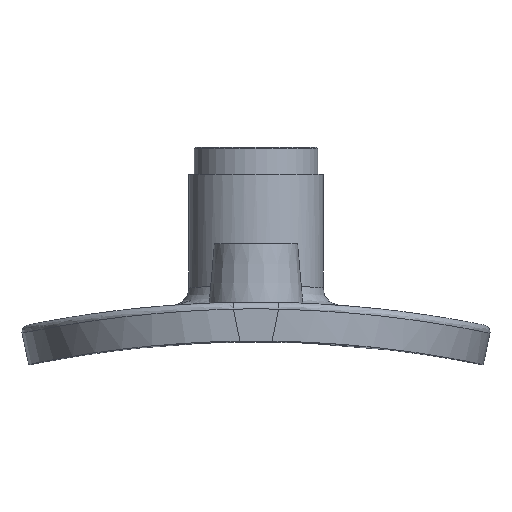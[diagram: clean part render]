
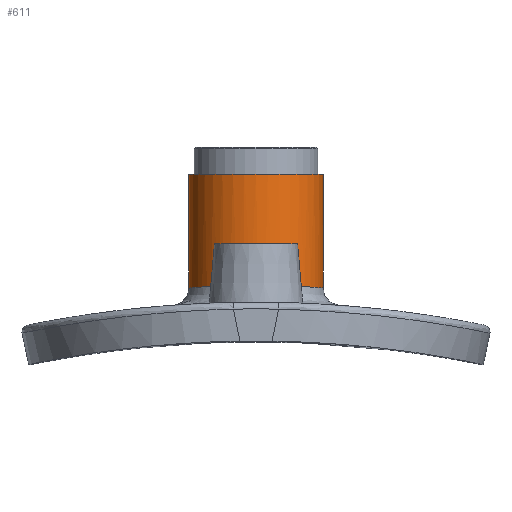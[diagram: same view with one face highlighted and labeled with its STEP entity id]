
A CAD part, top view. The second image highlights one B-rep face of the part: STEP entity #611.
In plain terms, the highlighted cylindrical face has radius 12.11 mm (diameter 24.22 mm), a full revolution.
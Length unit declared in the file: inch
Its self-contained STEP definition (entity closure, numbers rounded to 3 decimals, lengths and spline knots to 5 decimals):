
#25=B_SPLINE_CURVE_WITH_KNOTS('',3,(#1080,#1081,#1082,#1083,#1084,#1085,
#1086),.UNSPECIFIED.,.F.,.F.,(4,1,1,1,4),(-7.30052,-6.77905,
-6.25759,-5.5623,-5.47539),.UNSPECIFIED.);
#26=B_SPLINE_CURVE_WITH_KNOTS('',3,(#1087,#1088,#1089,#1090,#1091,#1092,
#1093,#1094,#1095,#1096,#1097,#1098,#1099,#1100),.UNSPECIFIED.,.F.,.F.,
(4,1,1,1,1,1,1,1,1,1,1,4),(-5.47539,-5.21466,-4.51937,
-4.17173,-3.47644,-3.12879,-2.43351,
-2.08586,-1.5644,-1.04293,-0.52147,
0.),.UNSPECIFIED.);
#66=LINE('',#1185,#94);
#67=LINE('',#1187,#95);
#94=VECTOR('',#781,0.47678);
#95=VECTOR('',#782,0.47678);
#120=CYLINDRICAL_SURFACE('',#679,0.47678);
#142=FACE_OUTER_BOUND('',#188,.T.);
#188=EDGE_LOOP('',(#449,#450,#451,#452,#453,#454,#455,#456));
#235=CIRCLE('',#680,0.47678);
#236=CIRCLE('',#681,0.47678);
#272=VERTEX_POINT('',#1059);
#274=VERTEX_POINT('',#1079);
#285=VERTEX_POINT('',#1181);
#286=VERTEX_POINT('',#1182);
#287=VERTEX_POINT('',#1186);
#336=EDGE_CURVE('',#272,#274,#25,.T.);
#337=EDGE_CURVE('',#274,#272,#26,.T.);
#348=EDGE_CURVE('',#285,#286,#235,.T.);
#349=EDGE_CURVE('',#286,#285,#236,.T.);
#350=EDGE_CURVE('',#286,#274,#66,.T.);
#351=EDGE_CURVE('',#287,#274,#67,.T.);
#449=ORIENTED_EDGE('',*,*,#348,.F.);
#450=ORIENTED_EDGE('',*,*,#349,.F.);
#451=ORIENTED_EDGE('',*,*,#350,.T.);
#452=ORIENTED_EDGE('',*,*,#336,.F.);
#453=ORIENTED_EDGE('',*,*,#337,.F.);
#454=ORIENTED_EDGE('',*,*,#351,.F.);
#455=ORIENTED_EDGE('',*,*,#351,.T.);
#456=ORIENTED_EDGE('',*,*,#350,.F.);
#611=ADVANCED_FACE('',(#142),#120,.T.);
#679=AXIS2_PLACEMENT_3D('',#1180,#775,#776);
#680=AXIS2_PLACEMENT_3D('',#1183,#777,#778);
#681=AXIS2_PLACEMENT_3D('',#1184,#779,#780);
#775=DIRECTION('center_axis',(0.,1.,0.));
#776=DIRECTION('ref_axis',(0.,0.,1.));
#777=DIRECTION('center_axis',(0.,1.,0.));
#778=DIRECTION('ref_axis',(1.,0.,0.));
#779=DIRECTION('center_axis',(0.,1.,0.));
#780=DIRECTION('ref_axis',(1.,0.,0.));
#781=DIRECTION('',(0.,-1.,0.));
#782=DIRECTION('',(0.,1.,0.));
#1059=CARTESIAN_POINT('',(-0.47678,8.34389,0.));
#1079=CARTESIAN_POINT('',(0.,8.36557,-0.47678));
#1080=CARTESIAN_POINT('Ctrl Pts',(-0.47678,8.34389,0.));
#1081=CARTESIAN_POINT('Ctrl Pts',(-0.47678,8.34389,-0.07135));
#1082=CARTESIAN_POINT('Ctrl Pts',(-0.44418,8.34695,-0.21378));
#1083=CARTESIAN_POINT('Ctrl Pts',(-0.29227,8.35878,-0.40491));
#1084=CARTESIAN_POINT('Ctrl Pts',(-0.11899,8.36523,-0.47282));
#1085=CARTESIAN_POINT('Ctrl Pts',(-0.01188,8.3656,-0.47693));
#1086=CARTESIAN_POINT('Ctrl Pts',(0.00002,8.3656,
-0.47693));
#1087=CARTESIAN_POINT('Ctrl Pts',(0.00002,8.3656,
-0.47693));
#1088=CARTESIAN_POINT('Ctrl Pts',(0.03573,8.3656,-0.47695));
#1089=CARTESIAN_POINT('Ctrl Pts',(0.16674,8.36422,-0.46219));
#1090=CARTESIAN_POINT('Ctrl Pts',(0.32761,8.35608,-0.36909));
#1091=CARTESIAN_POINT('Ctrl Pts',(0.46334,8.34534,-0.17019));
#1092=CARTESIAN_POINT('Ctrl Pts',(0.49299,8.34236,0.02603));
#1093=CARTESIAN_POINT('Ctrl Pts',(0.42191,8.34889,0.25629));
#1094=CARTESIAN_POINT('Ctrl Pts',(0.28696,8.35892,0.4016));
#1095=CARTESIAN_POINT('Ctrl Pts',(0.08526,8.36591,0.48063));
#1096=CARTESIAN_POINT('Ctrl Pts',(-0.10973,8.3659,0.48073));
#1097=CARTESIAN_POINT('Ctrl Pts',(-0.30747,8.3575,0.38544));
#1098=CARTESIAN_POINT('Ctrl Pts',(-0.44419,8.34701,0.214));
#1099=CARTESIAN_POINT('Ctrl Pts',(-0.47678,8.34389,0.07135));
#1100=CARTESIAN_POINT('Ctrl Pts',(-0.47678,8.34389,0.));
#1180=CARTESIAN_POINT('Origin',(0.,8.55797,0.));
#1181=CARTESIAN_POINT('',(0.,9.15137,0.47678));
#1182=CARTESIAN_POINT('',(0.,9.15137,-0.47678));
#1183=CARTESIAN_POINT('Origin',(0.,9.15137,0.));
#1184=CARTESIAN_POINT('Origin',(0.,9.15137,0.));
#1185=CARTESIAN_POINT('',(0.,8.55797,-0.47678));
#1186=CARTESIAN_POINT('',(0.,8.3431,-0.47678));
#1187=CARTESIAN_POINT('',(0.,8.55797,-0.47678));
